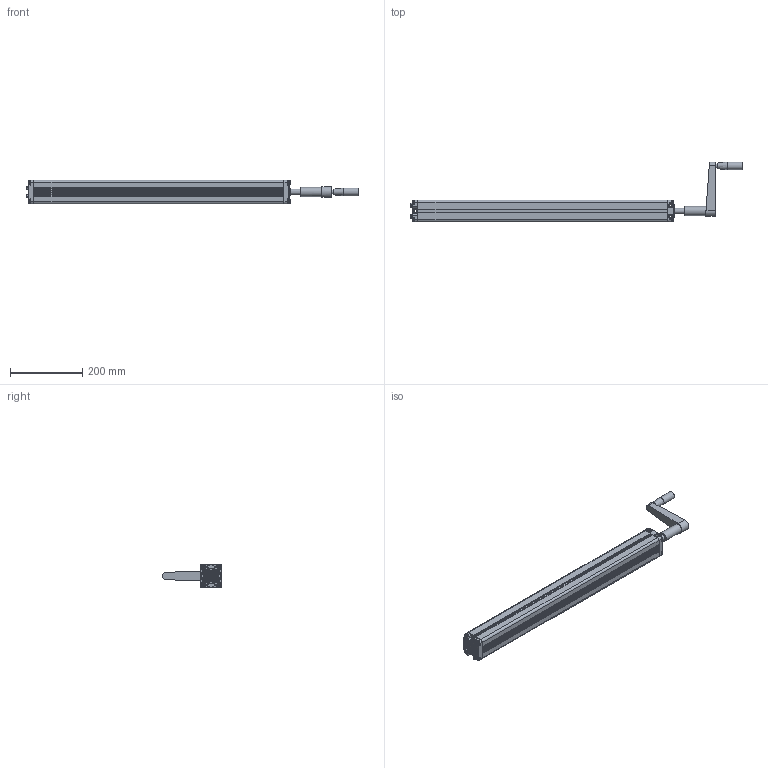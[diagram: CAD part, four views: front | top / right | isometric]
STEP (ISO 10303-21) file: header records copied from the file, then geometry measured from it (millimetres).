
FILE_DESCRIPTION(/* description */ ('Unknown'),/* implementation_level */ '2;1');
FILE_NAME(/* name */ '313.20035 Pumpe PF 4850 W mit Handkurbel',/* time_stamp */ '2018-01-19T16:30:42+01:00',/* author */ ('Unknown'),/* organization */ ('Unknown'),/* preprocessor_version */ 'ST-DEVELOPER v16.7',/* originating_system */ 'DEX',/* authorisation */ $);
FILE_SCHEMA (('AUTOMOTIVE_DESIGN {1 0 10303 214 3 1 1}'));
Products named in the file (29): 103.20035; 115.10055_oa_0; 125.00126; 115.00008_oa_1; 142.00021; 125.00021; 113.00005; 128.00001; 125.00052; 126.00013; 125.00053; 142.00077; 127.00014; 142.00244; Handgriff; 115.10055_oa_2; 115.00008_oa_3; 142.00013; 115.10055_oa_4; 115.00008_oa_5; 115.10055_oa_6; 115.00008_oa_7; 142.00057; 125.00145; 115.00141; 126.00076; 122.00040; 119.00355; 126.00075
Assembly tree (44 placements, depth 3):
  103.20035
    115.10055_oa_0
      125.00126
      115.00008_oa_1
      142.00021
      125.00021
    113.00005
      128.00001
      125.00052
      126.00013
      125.00053
      142.00077
      127.00014
      142.00244
      Handgriff
    115.10055_oa_2
      125.00126
      115.00008_oa_3
      142.00021
      125.00021
    142.00013  x8
    115.10055_oa_4
      125.00126
      115.00008_oa_5
      142.00021
      125.00021
    115.10055_oa_6
      125.00126
      115.00008_oa_7
      142.00021
      125.00021
    142.00057
    125.00145
    115.00141
      126.00076
      122.00040
    119.00355
    126.00075
Bounding box: 919.72 x 165.5 x 65 mm (x, y, z)
Volume: 991296.8 mm3; surface area: 570682 mm2
Topology: 34 solids, 34 shells, 2446 faces, 5968 edges, 3580 vertices
Faces by surface type: plane 977, cylinder 561, bspline 455, cone 334, torus 107, sphere 12
Full cylindrical faces by diameter (mm): 3.5 x4, 4 x2, 4.1 x4, 4.2 x5, 4.917 x2, 5 x8, 6 x1, 6.917 x8, 8 x10, 9.8 x8, 10 x4, 10.4 x1, 12.8 x1, 13 x5, 14 x2, 14.4 x4, 16 x2, 17 x1, 17.9 x8, 18 x1, 19 x1, 20.6 x1, 21 x1, 22 x1, 25.5 x1
Entity records: 79143 total; most frequent: CARTESIAN_POINT 39240, ORIENTED_EDGE 8370, DIRECTION 6895, EDGE_CURVE 4185, VERTEX_POINT 2687, AXIS2_PLACEMENT_3D 2430, LINE 2035, VECTOR 2035
